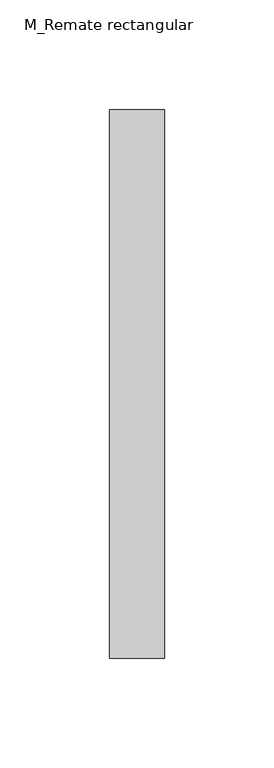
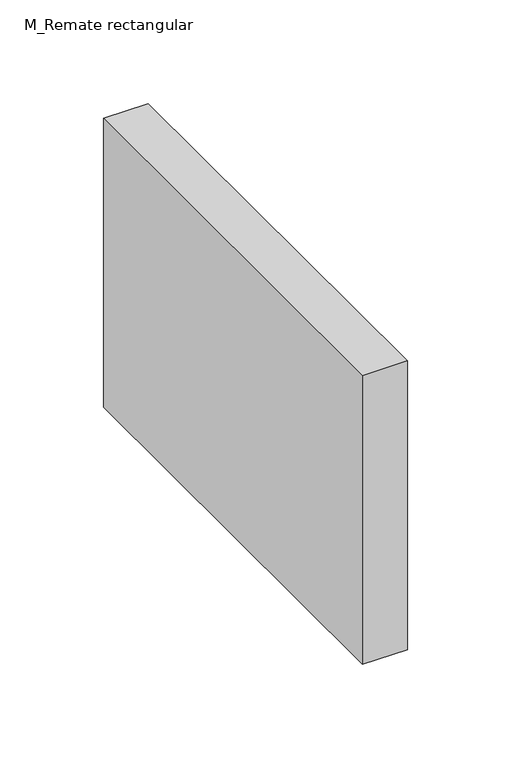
"""IFC4 building model written with IfcOpenShell, lengths in millimetres: duct fitting geometry, M_Remate rectangular : Estándar."""

from ifc_helpers import new_model, si_unit, frame, origin, place, context, project, spatial, polyline, outline, extrude, source, transform, mapped, element, save


def m_remate_rectangular_d1935fbe(model_context):
    return source(origin(), model_context, "Body", "SweptSolid", [
        extrude(outline(polyline([(0.0, -125.0), (0.0, 125.0), (25.0, 125.0), (25.0, -125.0), (0.0, -125.0)])), frame((0.0, 0.0, -85.0), z_axis=(0.0, 0.0, 1.0), x_axis=(1.0, 0.0, 0.0)), (0.0, 0.0, 1.0), 170.0),
    ])


if __name__ == "__main__":
    model = new_model("IFC4")
    model_context = context("Model", 3, world=origin())
    ifc_project = project(units=[si_unit("LENGTHUNIT", "METRE", prefix="MILLI")], contexts=[model_context])
    site = spatial("IfcSite", under=ifc_project)
    building = spatial("IfcBuilding", under=site)
    placement = place(None, origin())
    m_remate_rectangular_shape = m_remate_rectangular_d1935fbe(model_context)
    element("IfcDuctFitting", 1, ObjectType="M_Remate rectangular : Estándar", at=placement, inside=building, context=model_context, shape_type="MappedRepresentation", body=[
        mapped(m_remate_rectangular_shape, transform((0.0, 0.0, 0.0), x_axis=(1.0, 0.0, 0.0), y_axis=(0.0, 1.0, 0.0), z_axis=(0.0, 0.0, 1.0))),
    ])
    save(model, "model.ifc")
